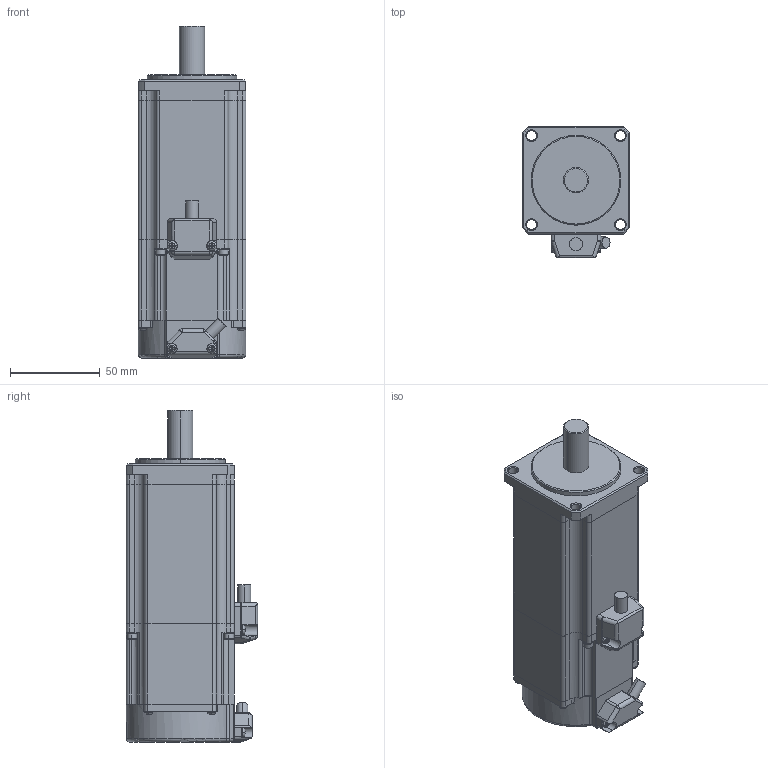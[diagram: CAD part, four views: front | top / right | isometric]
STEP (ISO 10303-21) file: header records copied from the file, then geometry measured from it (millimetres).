
FILE_DESCRIPTION(('Creo Elements/Direct Modeling STEP Export'),'2;1');
FILE_NAME('TS4610_BK有.stp','2016-12-22T16:43:12',(''),(''),'Creo Elements/Direct Modeling STEP processor for AP214 (Solid Model)','Creo Elements/Direct Modeling 17.0F 20-Aug-2012 (C) Parametric Technology GmbH','');
FILE_SCHEMA(('AUTOMOTIVE_DESIGN { 1 0 10303 214 1 1 1 1 }'));
Length unit declared in the file: millimetre
Products named in the file (2): TS4610N6000; ﾓｰﾀ
Assembly tree (1 placements, depth 2):
  ﾓｰﾀ
    TS4610N6000
Bounding box: 60 x 73 x 184.7 mm (x, y, z)
Volume: 508565.9 mm3; surface area: 45652.7 mm2
Topology: 1 solids, 1 shells, 675 faces, 1566 edges, 888 vertices
Faces by surface type: plane 322, cylinder 221, cone 80, sphere 29, torus 21, bspline 2
Entity records: 19205 total; most frequent: CARTESIAN_POINT 4657, ORIENTED_EDGE 3090, DIRECTION 3062, EDGE_CURVE 1545, AXIS2_PLACEMENT_3D 1199, VERTEX_POINT 888, EDGE_LOOP 699, FACE_OUTER_BOUND 675
